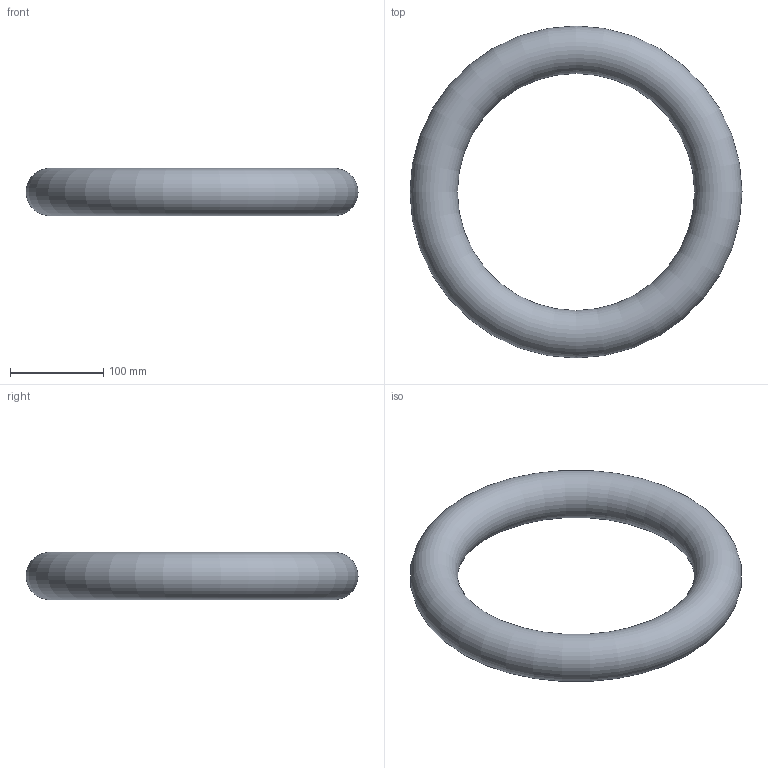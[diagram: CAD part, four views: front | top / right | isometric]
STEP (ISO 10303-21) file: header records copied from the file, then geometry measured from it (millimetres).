
FILE_DESCRIPTION(/* description */ (''),/* implementation_level */ '2;1');
FILE_NAME(/* name */ 'CRESCENDO Note.step',/* time_stamp */ '2024-01-09T11:16:41Z',/* author */ (''),/* organization */ (''),/* preprocessor_version */ 'ST-DEVELOPER v20',/* originating_system */ 'Autodesk Translation Framework v12.14.0.127',/* authorisation */ '');
FILE_SCHEMA (('AUTOMOTIVE_DESIGN { 1 0 10303 214 3 1 1 }'));
Length unit declared in the file: inch
Products named in the file (1): CRESCENDO Note
Bounding box: 355.6 x 355.6 x 50.8 mm (x, y, z)
Volume: 1940806.1 mm3; surface area: 152819.4 mm2
Topology: 1 solids, 1 shells, 1 faces, 2 edges, 1 vertices
Faces by surface type: torus 1
Entity records: 76 total; most frequent: DIRECTION 8, CARTESIAN_POINT 5, ORIENTED_EDGE 4, AXIS2_PLACEMENT_3D 4, CIRCLE 2, EDGE_CURVE 2, DERIVED_UNIT_ELEMENT 2, PROPERTY_DEFINITION_REPRESENTATION 2
